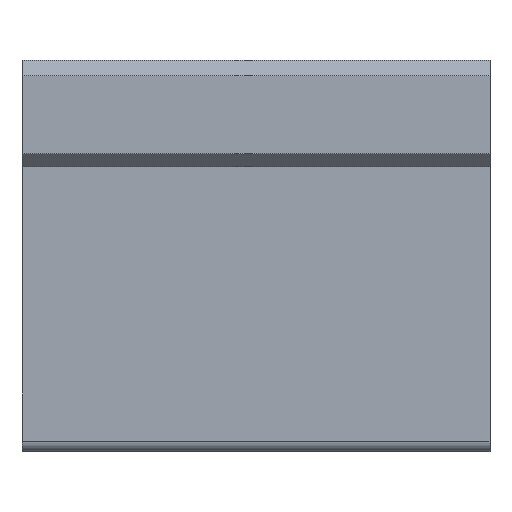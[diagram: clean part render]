
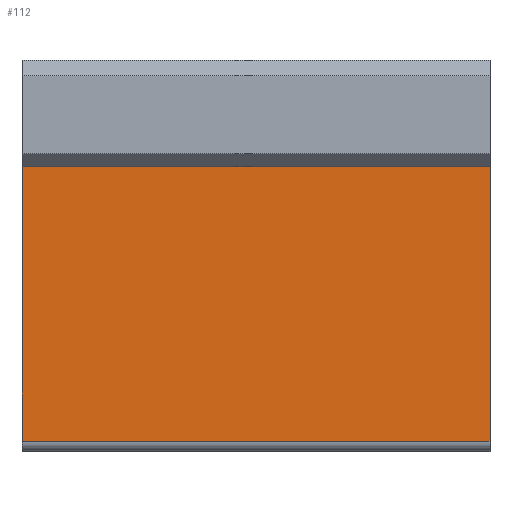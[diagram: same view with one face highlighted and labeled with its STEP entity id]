
A CAD part, front view. The second image highlights one B-rep face of the part: STEP entity #112.
In plain terms, the highlighted planar face has unit normal (0, -1, 0).
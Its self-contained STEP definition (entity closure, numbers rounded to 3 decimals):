
#112 = ADVANCED_FACE( '', ( #249 ), #250, .T. );
#249 = FACE_OUTER_BOUND( '', #402, .T. );
#250 = PLANE( '', #403 );
#402 = EDGE_LOOP( '', ( #647, #648, #649, #650 ) );
#403 = AXIS2_PLACEMENT_3D( '', #651, #652, #653 );
#647 = ORIENTED_EDGE( '', *, *, #850, .T. );
#648 = ORIENTED_EDGE( '', *, *, #879, .T. );
#649 = ORIENTED_EDGE( '', *, *, #904, .T. );
#650 = ORIENTED_EDGE( '', *, *, #905, .F. );
#651 = CARTESIAN_POINT( '', ( 0., -57., -38. ) );
#652 = DIRECTION( '', ( 0., -1., 0. ) );
#653 = DIRECTION( '', ( 1., 0., 0. ) );
#850 = EDGE_CURVE( '', #1010, #1008, #1011, .T. );
#879 = EDGE_CURVE( '', #1008, #1052, #1054, .T. );
#904 = EDGE_CURVE( '', #1052, #1087, #1088, .T. );
#905 = EDGE_CURVE( '', #1010, #1087, #1089, .T. );
#1008 = VERTEX_POINT( '', #1217 );
#1010 = VERTEX_POINT( '', #1219 );
#1011 = LINE( '', #1220, #1221 );
#1052 = VERTEX_POINT( '', #1280 );
#1054 = LINE( '', #1282, #1283 );
#1087 = VERTEX_POINT( '', #1324 );
#1088 = LINE( '', #1325, #1326 );
#1089 = LINE( '', #1327, #1328 );
#1217 = CARTESIAN_POINT( '', ( 0., -57., -36.5 ) );
#1219 = CARTESIAN_POINT( '', ( 0., -57., 28. ) );
#1220 = CARTESIAN_POINT( '', ( 0., -57., 28. ) );
#1221 = VECTOR( '', #1449, 1000. );
#1280 = CARTESIAN_POINT( '', ( 110., -57., -36.5 ) );
#1282 = CARTESIAN_POINT( '', ( 0., -57., -36.5 ) );
#1283 = VECTOR( '', #1477, 1000. );
#1324 = CARTESIAN_POINT( '', ( 110., -57., 28. ) );
#1325 = CARTESIAN_POINT( '', ( 110., -57., -38. ) );
#1326 = VECTOR( '', #1501, 1000. );
#1327 = CARTESIAN_POINT( '', ( 0., -57., 28. ) );
#1328 = VECTOR( '', #1502, 1000. );
#1449 = DIRECTION( '', ( 0., 0., -1. ) );
#1477 = DIRECTION( '', ( 1., 0., 0. ) );
#1501 = DIRECTION( '', ( 0., 0., 1. ) );
#1502 = DIRECTION( '', ( 1., 0., 0. ) );
